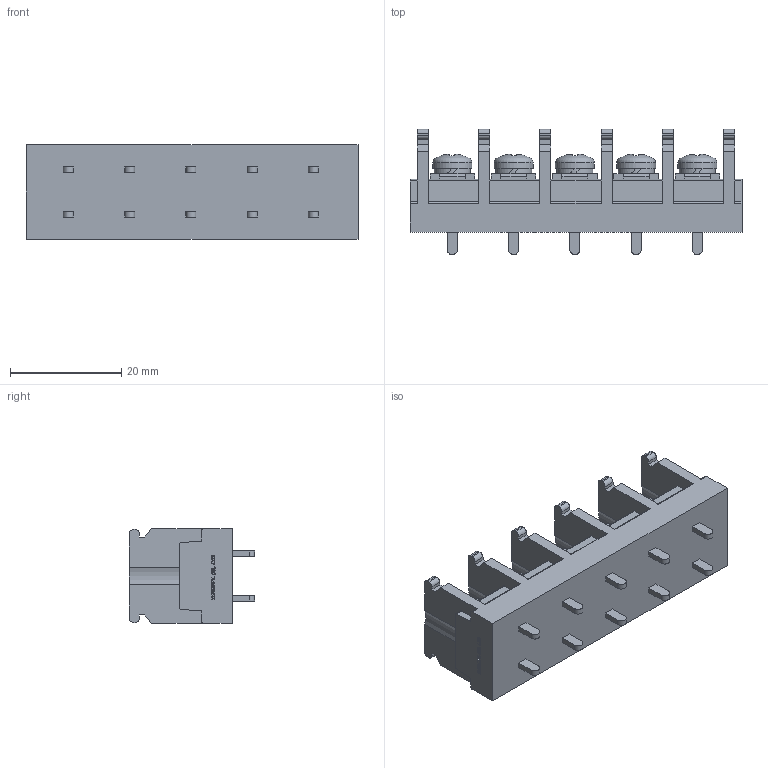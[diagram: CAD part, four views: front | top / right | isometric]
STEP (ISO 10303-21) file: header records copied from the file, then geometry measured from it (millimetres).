
FILE_DESCRIPTION(/* description */ ('Alibre Inc.'),/* implementation_level */ '2;1');
FILE_NAME(/* name */ 'export0',/* time_stamp */ '2015-10-19T19:42:01+09:00',/* author */ (''),/* organization */ (''),/* preprocessor_version */ 'ST-DEVELOPER v14',/* originating_system */ 'Alibre',/* authorisation */ '');
FILE_SCHEMA (('CONFIG_CONTROL_DESIGN'));
Length unit declared in the file: centimetre
Products named in the file (1): ID_1
Bounding box: 59.6 x 22.5 x 17 mm (x, y, z)
Volume: 11313.7 mm3; surface area: 6614.5 mm2
Topology: 1 solids, 1 shells, 808 faces, 2223 edges, 1477 vertices
Faces by surface type: plane 570, bspline 104, cylinder 99, cone 20, torus 10, sphere 5
Full cylindrical faces by diameter (mm): 4 x5, 6.5 x5, 7 x5
Entity records: 24894 total; most frequent: CARTESIAN_POINT 5523, ORIENTED_EDGE 4376, DIRECTION 3091, EDGE_CURVE 2188, VECTOR 1585, LINE 1585, VERTEX_POINT 1462, AXIS2_PLACEMENT_3D 1028
